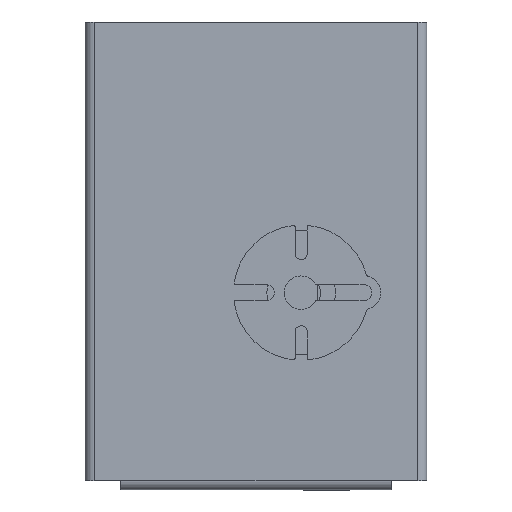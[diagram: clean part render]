
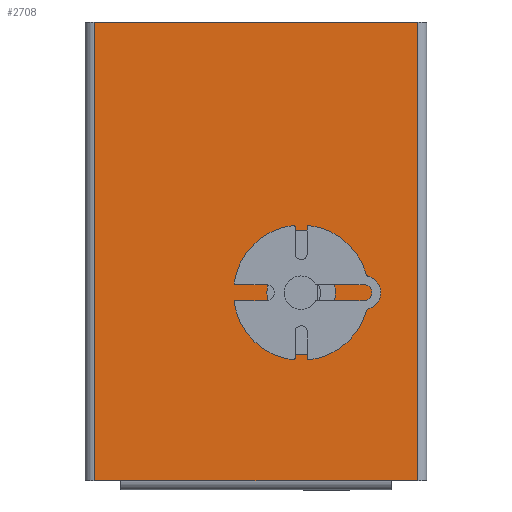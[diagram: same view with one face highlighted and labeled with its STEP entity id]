
A CAD part, top view. The second image highlights one B-rep face of the part: STEP entity #2708.
In plain terms, the highlighted planar face has unit normal (0, 0, 1).
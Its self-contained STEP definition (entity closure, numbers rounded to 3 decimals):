
#8 = DIRECTION ( 'NONE',  ( 1., 0., 0. ) ) ;
#233 = CARTESIAN_POINT ( 'NONE',  ( -59.7, 184.75, 214.65 ) ) ;
#350 = VECTOR ( 'NONE', #2308, 1000. ) ;
#537 = CARTESIAN_POINT ( 'NONE',  ( -5., 364.75, 214.65 ) ) ;
#567 = VERTEX_POINT ( 'NONE', #2800 ) ;
#657 = VERTEX_POINT ( 'NONE', #4912 ) ;
#899 = DIRECTION ( 'NONE',  ( 1., 0., 0. ) ) ;
#1013 = VERTEX_POINT ( 'NONE', #2353 ) ;
#1030 = CARTESIAN_POINT ( 'NONE',  ( 0., 0., 214.65 ) ) ;
#1441 = ORIENTED_EDGE ( 'NONE', *, *, #2243, .T. ) ;
#1497 = DIRECTION ( 'NONE',  ( 1., 0., 0. ) ) ;
#1627 = CARTESIAN_POINT ( 'NONE',  ( -226., 364.75, 214.65 ) ) ;
#1678 = LINE ( 'NONE', #5049, #4130 ) ;
#1758 = DIRECTION ( 'NONE',  ( 0., -1., 0. ) ) ;
#1767 = VECTOR ( 'NONE', #4401, 1000. ) ;
#1941 = PLANE ( 'NONE',  #3911 ) ;
#2174 = EDGE_CURVE ( 'NONE', #657, #1013, #1678, .T. ) ;
#2183 = AXIS2_PLACEMENT_3D ( 'NONE', #5608, #2807, #8 ) ;
#2240 = DIRECTION ( 'NONE',  ( 1., 0., 0. ) ) ;
#2243 = EDGE_CURVE ( 'NONE', #3618, #567, #2976, .T. ) ;
#2270 = EDGE_CURVE ( 'NONE', #3458, #3458, #5954, .T. ) ;
#2308 = DIRECTION ( 'NONE',  ( 0., 1., 0. ) ) ;
#2353 = CARTESIAN_POINT ( 'NONE',  ( -202.5, 59.75, 214.65 ) ) ;
#2354 = EDGE_CURVE ( 'NONE', #1013, #3618, #3772, .T. ) ;
#2540 = ORIENTED_EDGE ( 'NONE', *, *, #4619, .T. ) ;
#2708 = ADVANCED_FACE ( 'NONE', ( #4453, #5293 ), #1941, .T. ) ;
#2800 = CARTESIAN_POINT ( 'NONE',  ( -5., 59.75, 214.65 ) ) ;
#2807 = DIRECTION ( 'NONE',  ( 0., 0., 1. ) ) ;
#2877 = CARTESIAN_POINT ( 'NONE',  ( -22.5, 59.75, 214.65 ) ) ;
#2911 = EDGE_CURVE ( 'NONE', #3914, #5578, #3009, .T. ) ;
#2976 = LINE ( 'NONE', #5561, #5321 ) ;
#3009 = LINE ( 'NONE', #1627, #1767 ) ;
#3040 = ORIENTED_EDGE ( 'NONE', *, *, #2270, .F. ) ;
#3458 = VERTEX_POINT ( 'NONE', #233 ) ;
#3618 = VERTEX_POINT ( 'NONE', #5591 ) ;
#3772 = LINE ( 'NONE', #2877, #5023 ) ;
#3844 = EDGE_LOOP ( 'NONE', ( #3040 ) ) ;
#3911 = AXIS2_PLACEMENT_3D ( 'NONE', #1030, #4286, #1497 ) ;
#3914 = VERTEX_POINT ( 'NONE', #537 ) ;
#4130 = VECTOR ( 'NONE', #2240, 1000. ) ;
#4164 = CARTESIAN_POINT ( 'NONE',  ( -5., 364.75, 214.65 ) ) ;
#4172 = ORIENTED_EDGE ( 'NONE', *, *, #2174, .T. ) ;
#4182 = ORIENTED_EDGE ( 'NONE', *, *, #4751, .T. ) ;
#4286 = DIRECTION ( 'NONE',  ( 0., 0., 1. ) ) ;
#4401 = DIRECTION ( 'NONE',  ( -1., 0., 0. ) ) ;
#4453 = FACE_BOUND ( 'NONE', #3844, .T. ) ;
#4497 = CARTESIAN_POINT ( 'NONE',  ( -220., 364.75, 214.65 ) ) ;
#4619 = EDGE_CURVE ( 'NONE', #5578, #657, #5698, .T. ) ;
#4751 = EDGE_CURVE ( 'NONE', #567, #3914, #5329, .T. ) ;
#4912 = CARTESIAN_POINT ( 'NONE',  ( -220., 59.75, 214.65 ) ) ;
#4925 = ORIENTED_EDGE ( 'NONE', *, *, #2354, .T. ) ;
#5022 = CARTESIAN_POINT ( 'NONE',  ( -220., 59.75, 214.65 ) ) ;
#5023 = VECTOR ( 'NONE', #5669, 1000. ) ;
#5049 = CARTESIAN_POINT ( 'NONE',  ( -202.5, 59.75, 214.65 ) ) ;
#5202 = EDGE_LOOP ( 'NONE', ( #4172, #4925, #1441, #4182, #5909, #2540 ) ) ;
#5293 = FACE_OUTER_BOUND ( 'NONE', #5202, .T. ) ;
#5321 = VECTOR ( 'NONE', #899, 1000. ) ;
#5329 = LINE ( 'NONE', #4164, #350 ) ;
#5536 = VECTOR ( 'NONE', #1758, 1000. ) ;
#5561 = CARTESIAN_POINT ( 'NONE',  ( -22.5, 59.75, 214.65 ) ) ;
#5578 = VERTEX_POINT ( 'NONE', #4497 ) ;
#5591 = CARTESIAN_POINT ( 'NONE',  ( -22.5, 59.75, 214.65 ) ) ;
#5608 = CARTESIAN_POINT ( 'NONE',  ( -82.5, 184.75, 214.65 ) ) ;
#5669 = DIRECTION ( 'NONE',  ( 1., 0., 0. ) ) ;
#5698 = LINE ( 'NONE', #5022, #5536 ) ;
#5909 = ORIENTED_EDGE ( 'NONE', *, *, #2911, .T. ) ;
#5954 = CIRCLE ( 'NONE', #2183, 22.8 ) ;
